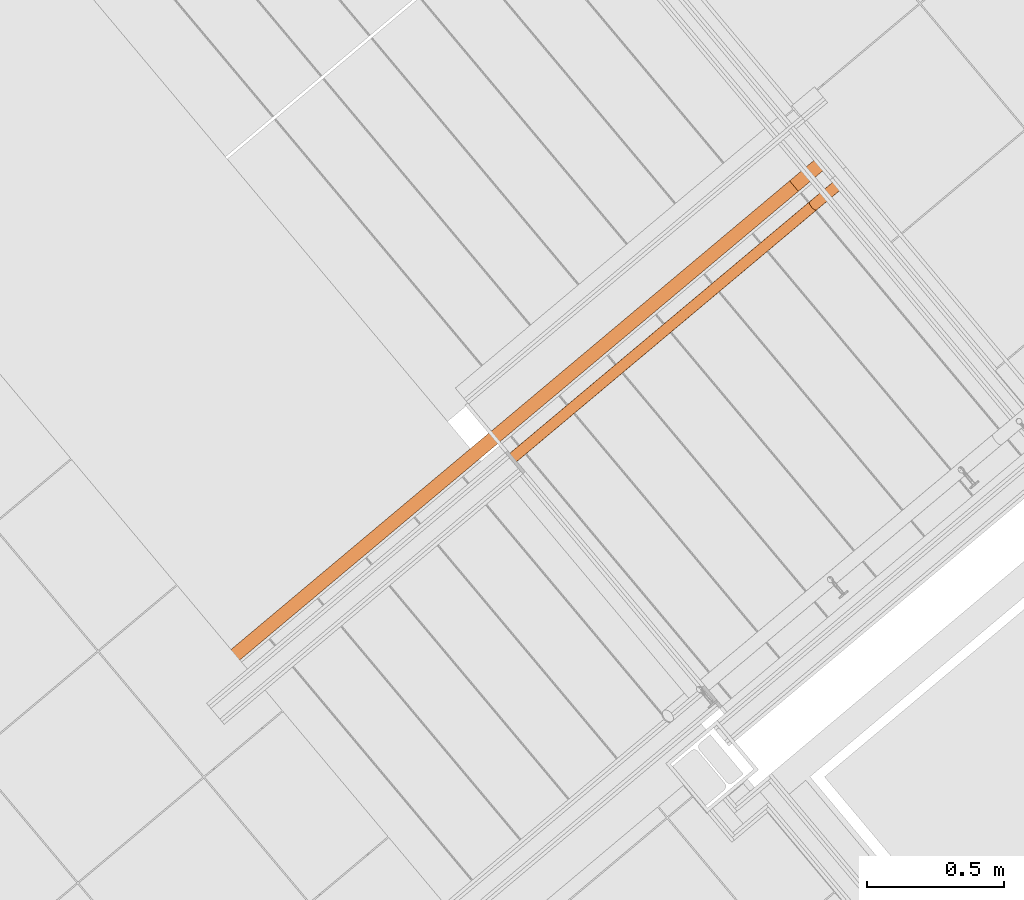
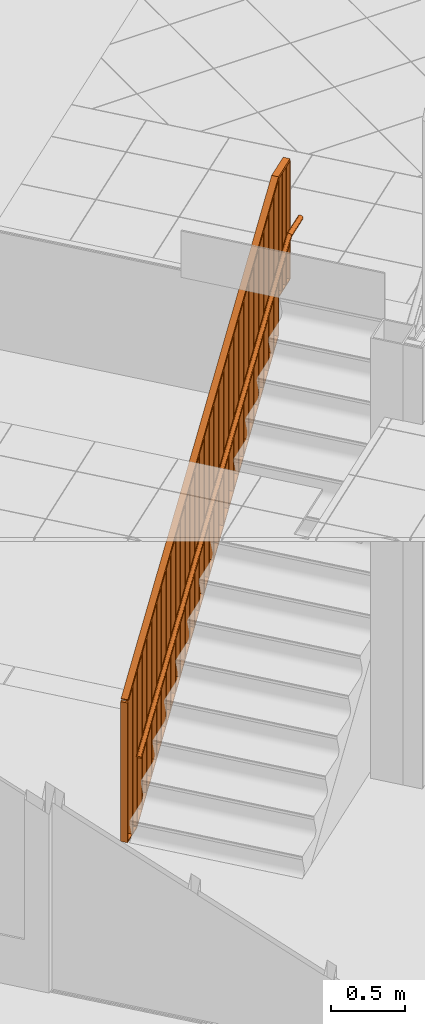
# One storey, part 317 of 338: 1 proxy.
"""IFC2X3 building model written with IfcOpenShell, lengths in millimetres."""

from ifc_helpers import new_model, entity, si_unit, converted_unit, derived_unit, money_unit, direction, origin_with_axes, place, context, subcontext, project, spatial, faceted_brep, material, type_object, element, save


model = new_model("IFC2X3")

# Units and contexts
model_context = context("Model", 3, precision=0.01, world=origin_with_axes(), true_north=direction((0.0, 1.0)))
plan_context = context("Plan", 3, precision=0.01, world=origin_with_axes(), true_north=direction((0.0, 1.0)))
body_context = subcontext(model_context, "Body", "Model", "MODEL_VIEW")
ifc_project = project(units=[si_unit("LENGTHUNIT", "METRE", prefix="MILLI"), si_unit("AREAUNIT", "SQUARE_METRE"), si_unit("VOLUMEUNIT", "CUBIC_METRE"), converted_unit("PLANEANGLEUNIT", "DEGREE", entity("IfcPlaneAngleMeasure", 0.0174532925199), si_unit("PLANEANGLEUNIT", "RADIAN"), dimensions=[0, 0, 0, 0, 0, 0, 0]), money_unit("EUR"), converted_unit("TIMEUNIT", "Year", entity("IfcTimeMeasure", 31556926.0), si_unit("TIMEUNIT", "SECOND"), dimensions=[0, 0, 1, 0, 0, 0, 0]), si_unit("MASSUNIT", "GRAM", prefix="KILO"), si_unit("THERMODYNAMICTEMPERATUREUNIT", "DEGREE_CELSIUS"), si_unit("LUMINOUSINTENSITYUNIT", "LUMEN"), si_unit("ENERGYUNIT", "JOULE", prefix="MEGA"), derived_unit("THERMALCONDUCTANCEUNIT", [(si_unit("POWERUNIT", "WATT"), 1), (si_unit("LENGTHUNIT", "METRE"), -1), (si_unit("THERMODYNAMICTEMPERATUREUNIT", "KELVIN"), -1)]), derived_unit("SPECIFICHEATCAPACITYUNIT", [(si_unit("ENERGYUNIT", "JOULE"), 1), (si_unit("MASSUNIT", "GRAM", prefix="KILO"), -1), (si_unit("THERMODYNAMICTEMPERATUREUNIT", "KELVIN"), -1)]), derived_unit("MASSDENSITYUNIT", [(si_unit("MASSUNIT", "GRAM", prefix="KILO"), 1), (si_unit("VOLUMEUNIT", "CUBIC_METRE"), -1)])], contexts=[model_context, plan_context])

# Site, building, storey
site_placement = place(None, origin_with_axes())
site = spatial("IfcSite", under=ifc_project, at=site_placement, Name="Fortuinstraat Woensdrecht", CompositionType="ELEMENT")
building_placement = place(site_placement, origin_with_axes())
building = spatial("IfcBuilding", under=site, at=building_placement, Name="IKC Fortuna", CompositionType="ELEMENT")
storey_placement = place(building_placement, origin_with_axes())
storey = spatial("IfcBuildingStorey", under=building, at=storey_placement, Name="00 begane grond", CompositionType="ELEMENT", Elevation=0.0)

# Proxy
ifc_material = material(Name="ALG - BINNENAFWERKING")
building_element_proxy_type = type_object("IfcBuildingElementProxyType", Name="ALG - BINNENAFWERKING", PredefinedType="USERDEFINED")
proxy_placement = place(storey_placement, origin_with_axes())
element("IfcBuildingElementProxy", 1, at=proxy_placement, inside=storey, type_object=building_element_proxy_type, material=ifc_material, Name="_Massa_Morph-x", ObjectType="Massing", context=body_context, shape_type="Brep", body=[
    faceted_brep([(18576.1688383, 808.710542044, 1450.0), (18576.1688383, 808.710542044, 2608.18322981), (18544.0294578, 847.0127642, 2608.18322981), (18544.0294578, 847.0127642, 1450.0), (18721.2666681, 930.462077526, 1450.0), (18721.2666681, 930.462077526, 1451.80524827), (20874.3021677, 2737.0733711, 3677.58164578), (20874.3021677, 2737.0733711, 3995.0), (21046.6621674, 2881.70058328, 3995.0), (21046.6621674, 2881.70058328, 4000.0), (21050.4923896, 2884.91452133, 4000.0), (21050.4923896, 2884.91452133, 4980.0), (21046.6621674, 2881.70058328, 4980.0), (21046.6621674, 2881.70058328, 5000.0), (20870.4719454, 2733.85943306, 5000.0), (18579.9990605, 811.924480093, 2632.14285714), (18589.510692, 819.905686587, 2616.46391557), (18648.7177532, 869.586309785, 2677.67130363), (18648.7177532, 869.586309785, 1460.0), (18583.8292827, 815.138418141, 1460.0), (18583.8292827, 815.138418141, 2616.10248447), (20874.3021677, 2737.0733711, 4005.0), (20874.3021677, 2737.0733711, 4978.44770115), (20875.8037356, 2738.33333623, 4980.0), (21042.8319451, 2878.48664524, 4980.0), (21042.8319451, 2878.48664524, 4005.0), (20991.7623156, 2835.63413792, 4005.0), (20991.7623156, 2835.63413792, 4977.5), (20984.1018712, 2829.20626183, 4977.5), (20984.1018712, 2829.20626183, 4005.0), (20933.0322416, 2786.35375451, 4005.0), (20933.0322416, 2786.35375451, 4977.5), (20925.3717972, 2779.92587842, 4977.5), (20925.3717972, 2779.92587842, 4005.0), (20866.6417232, 2730.64549501, 3682.41835422), (20798.7920725, 2673.71287815, 3612.27638438), (20798.7920725, 2673.71287815, 4900.38647666), (20866.6417232, 2730.64549501, 4970.52844649), (20723.2819774, 2610.35238519, 3534.21515989), (20723.2819774, 2610.35238519, 4822.32525217), (20791.1316281, 2667.28500205, 4892.467222), (20791.1316281, 2667.28500205, 3604.35712973), (20715.621533, 2603.9245091, 3526.29590524), (20647.7718823, 2546.99189224, 3456.1539354), (20647.7718823, 2546.99189224, 4744.26402768), (20715.621533, 2603.9245091, 4814.40599751), (20640.1114379, 2540.56401614, 3448.23468075), (20572.2617872, 2483.63139928, 3378.09271091), (20572.2617872, 2483.63139928, 4666.20280319), (20640.1114379, 2540.56401614, 4736.34477302), (20564.6013428, 2477.20352319, 3370.17345626), (20496.7516921, 2420.27090633, 3300.03148643), (20496.7516921, 2420.27090633, 4588.1415787), (20564.6013428, 2477.20352319, 4658.28354853), (20489.0912477, 2413.84303023, 3292.11223177), (20421.241597, 2356.91041338, 3221.97026194), (20421.241597, 2356.91041338, 4510.08035421), (20489.0912477, 2413.84303023, 4580.22232404), (20413.5811526, 2350.48253728, 3214.05100728), (20345.7315019, 2293.54992042, 3143.90903745), (20345.7315019, 2293.54992042, 4432.01912972), (20413.5811526, 2350.48253728, 4502.16109955), (20338.0710575, 2287.12204432, 3135.98978279), (20270.2214068, 2230.18942747, 3065.84781296), (20270.2214068, 2230.18942747, 4353.95790523), (20338.0710575, 2287.12204432, 4424.09987506), (20194.7113117, 2166.82893451, 2987.78658847), (20194.7113117, 2166.82893451, 4275.89668074), (20262.5609624, 2223.76155137, 4346.03865057), (20262.5609624, 2223.76155137, 3057.9285583), (20187.0508673, 2160.40105841, 2979.86733381), (20119.2012166, 2103.46844156, 2909.72536398), (20119.2012166, 2103.46844156, 4197.83545625), (20187.0508673, 2160.40105841, 4267.97742608), (20111.5407721, 2097.04056546, 2901.80610932), (20043.6911215, 2040.1079486, 2831.66413949), (20043.6911215, 2040.1079486, 4119.77423176), (20111.5407721, 2097.04056546, 4189.91620159), (20036.030677, 2033.6800725, 2823.74488483), (19968.1810264, 1976.74745565, 2753.602915), (19968.1810264, 1976.74745565, 4041.71300727), (20036.030677, 2033.6800725, 4111.8549771), (19960.5205819, 1970.31957955, 2745.68366034), (19892.6709313, 1913.38696269, 2675.54169051), (19892.6709313, 1913.38696269, 3963.65178278), (19960.5205819, 1970.31957955, 4033.79375261), (19885.0104868, 1906.95908659, 2667.62243585), (19744.6119212, 1789.150702, 2522.48046602), (19744.6119212, 1789.150702, 3810.59055829), (19809.5003917, 1843.59859364, 3877.67130363), (19809.5003917, 1843.59859364, 2591.12243585), (19817.1608362, 1850.02646974, 2599.04169051), (19817.1608362, 1850.02646974, 3885.59055829), (19885.0104868, 1906.95908659, 3955.73252812), (19672.0630063, 1728.27493425, 2447.48046602), (19672.0630063, 1728.27493425, 3735.59055829), (19736.9514768, 1782.7228259, 3802.67130363), (19736.9514768, 1782.7228259, 2514.56121136), (19664.4025619, 1721.84705816, 2439.56121136), (19599.5140914, 1667.39916651, 2372.48046602), (19599.5140914, 1667.39916651, 3660.59055829), (19664.4025619, 1721.84705816, 3727.67130363), (19591.853647, 1660.97129042, 2364.56121136), (19526.9651765, 1606.52339877, 2297.48046602), (19526.9651765, 1606.52339877, 3585.59055829), (19591.853647, 1660.97129042, 3652.67130363), (19454.4162616, 1545.64763103, 3510.59055829), (19519.3047321, 1600.09552268, 3577.67130363), (19519.3047321, 1600.09552268, 2289.56121136), (19454.4162616, 1545.64763103, 2222.48046602), (19381.8673467, 1484.77186329, 2147.48046602), (19381.8673467, 1484.77186329, 3435.59055829), (19446.7558172, 1539.21975494, 3502.67130363), (19446.7558172, 1539.21975494, 2214.56121136), (19374.2069023, 1478.34398719, 2139.56121136), (19309.3184318, 1423.89609555, 2072.48046602), (19309.3184318, 1423.89609555, 3360.59055829), (19374.2069023, 1478.34398719, 3427.67130363), (19301.6579874, 1417.46821945, 2064.56121136), (19236.7695169, 1363.02032781, 1997.48046602), (19236.7695169, 1363.02032781, 3285.59055829), (19301.6579874, 1417.46821945, 3352.67130363), (19164.220602, 1302.14456007, 1922.48046602), (19164.220602, 1302.14456007, 3210.59055829), (19229.1090725, 1356.59245171, 3277.67130363), (19229.1090725, 1356.59245171, 1989.56121136), (19156.5601576, 1295.71668397, 1914.56121136), (19091.6716871, 1241.26879233, 1847.48046602), (19091.6716871, 1241.26879233, 3135.59055829), (19156.5601576, 1295.71668397, 3202.67130363), (19084.0112426, 1234.84091623, 1839.56121136), (19019.1227722, 1180.39302459, 1772.48046602), (19019.1227722, 1180.39302459, 3060.59055829), (19084.0112426, 1234.84091623, 3127.67130363), (18946.5738573, 1119.51725685, 1697.48046602), (18946.5738573, 1119.51725685, 2985.59055829), (19011.4623277, 1173.96514849, 3052.67130363), (19011.4623277, 1173.96514849, 1764.56121136), (18938.9134128, 1113.08938075, 1689.56121136), (18874.0249424, 1058.6414891, 1622.48046602), (18874.0249424, 1058.6414891, 2910.59055829), (18938.9134128, 1113.08938075, 2977.67130363), (18866.3644979, 1052.21361301, 1614.56121136), (18801.4760275, 997.765721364, 1547.48046602), (18801.4760275, 997.765721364, 2835.59055829), (18866.3644979, 1052.21361301, 2902.67130363), (18793.815583, 991.337845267, 1539.56121136), (18728.9271125, 936.889953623, 1472.48046602), (18728.9271125, 936.889953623, 2760.59055829), (18793.815583, 991.337845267, 2827.67130363), (18716.8545223, 926.759847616, 1460.0), (18656.3781976, 876.014185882, 1460.0), (18656.3781976, 876.014185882, 2685.59055829), (18721.2666681, 930.462077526, 2752.67130363), (18721.2666681, 930.462077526, 1464.56121136), (18551.6899022, 853.440640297, 2616.10248447), (18551.6899022, 853.440640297, 1460.0), (18616.5783727, 907.888531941, 1460.0), (18616.5783727, 907.888531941, 2677.67130363), (18557.3713115, 858.207908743, 2616.46391557), (18547.85968, 850.226702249, 2632.14285714), (20838.332565, 2772.16165521, 5000.0), (21014.5227869, 2920.00280544, 5000.0), (21014.5227869, 2920.00280544, 4980.0), (21018.3530091, 2923.21674349, 4980.0), (21018.3530091, 2923.21674349, 4000.0), (21014.5227869, 2920.00280544, 4000.0), (21014.5227869, 2920.00280544, 3995.0), (20842.1627872, 2775.37559326, 3995.0), (20842.1627872, 2775.37559326, 3677.58164578), (18689.1272876, 968.764299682, 1451.80524827), (18689.1272876, 968.764299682, 1450.0), (20842.1627872, 2775.37559326, 4978.44770115), (20842.1627872, 2775.37559326, 4005.0), (20893.2324167, 2818.22810057, 4005.0), (20893.2324167, 2818.22810057, 4977.5), (20900.8928611, 2824.65597667, 4977.5), (20900.8928611, 2824.65597667, 4005.0), (20951.9624907, 2867.50848398, 4005.0), (20951.9624907, 2867.50848398, 4977.5), (20959.6229351, 2873.93636008, 4977.5), (20959.6229351, 2873.93636008, 4005.0), (21010.6925647, 2916.78886739, 4005.0), (21010.6925647, 2916.78886739, 4980.0), (20843.6643551, 2776.63555838, 4980.0), (20766.6526921, 2712.01510031, 3612.27638438), (20834.5023427, 2768.94771716, 3682.41835422), (20834.5023427, 2768.94771716, 4970.52844649), (20766.6526921, 2712.01510031, 4900.38647666), (20691.142597, 2648.65460735, 3534.21515989), (20758.9922476, 2705.58722421, 3604.35712973), (20758.9922476, 2705.58722421, 4892.467222), (20691.142597, 2648.65460735, 4822.32525217), (20615.6325018, 2585.2941144, 4744.26402768), (20615.6325018, 2585.2941144, 3456.1539354), (20683.4821525, 2642.22673125, 3526.29590524), (20683.4821525, 2642.22673125, 4814.40599751), (20540.1224067, 2521.93362144, 3378.09271091), (20607.9720574, 2578.8662383, 3448.23468075), (20607.9720574, 2578.8662383, 4736.34477302), (20540.1224067, 2521.93362144, 4666.20280319), (20464.6123116, 2458.57312849, 3300.03148643), (20532.4619623, 2515.50574534, 3370.17345626), (20532.4619623, 2515.50574534, 4658.28354853), (20464.6123116, 2458.57312849, 4588.1415787), (20389.1022165, 2395.21263553, 3221.97026194), (20456.9518672, 2452.14525239, 3292.11223177), (20456.9518672, 2452.14525239, 4580.22232404), (20389.1022165, 2395.21263553, 4510.08035421), (20313.5921214, 2331.85214258, 3143.90903745), (20381.4417721, 2388.78475943, 3214.05100728), (20381.4417721, 2388.78475943, 4502.16109955), (20313.5921214, 2331.85214258, 4432.01912972), (20238.0820263, 2268.49164962, 3065.84781296), (20305.931677, 2325.42426648, 3135.98978279), (20305.931677, 2325.42426648, 4424.09987506), (20238.0820263, 2268.49164962, 4353.95790523), (20162.5719312, 2205.13115667, 2987.78658847), (20230.4215819, 2262.06377352, 3057.9285583), (20230.4215819, 2262.06377352, 4346.03865057), (20162.5719312, 2205.13115667, 4275.89668074), (20087.0618361, 2141.77066371, 2909.72536398), (20154.9114868, 2198.70328057, 2979.86733381), (20154.9114868, 2198.70328057, 4267.97742608), (20087.0618361, 2141.77066371, 4197.83545625), (20011.551741, 2078.41017076, 2831.66413949), (20079.4013917, 2135.34278761, 2901.80610932), (20079.4013917, 2135.34278761, 4189.91620159), (20011.551741, 2078.41017076, 4119.77423176), (19936.0416459, 2015.0496778, 2753.602915), (20003.8912966, 2071.98229466, 2823.74488483), (20003.8912966, 2071.98229466, 4111.8549771), (19936.0416459, 2015.0496778, 4041.71300727), (19860.5315508, 1951.68918485, 2675.54169051), (19928.3812014, 2008.62180171, 2745.68366034), (19928.3812014, 2008.62180171, 4033.79375261), (19860.5315508, 1951.68918485, 3963.65178278), (19712.4725408, 1827.45292415, 2522.48046602), (19852.8711063, 1945.26130875, 2667.62243585), (19852.8711063, 1945.26130875, 3955.73252812), (19785.0214557, 1888.32869189, 3885.59055829), (19785.0214557, 1888.32869189, 2599.04169051), (19777.3610112, 1881.9008158, 2591.12243585), (19777.3610112, 1881.9008158, 3877.67130363), (19712.4725408, 1827.45292415, 3810.59055829), (19639.9236259, 1766.57715641, 3735.59055829), (19639.9236259, 1766.57715641, 2447.48046602), (19704.8120963, 1821.02504805, 2514.56121136), (19704.8120963, 1821.02504805, 3802.67130363), (19567.3747109, 1705.70138867, 3660.59055829), (19567.3747109, 1705.70138867, 2372.48046602), (19632.2631814, 1760.14928031, 2439.56121136), (19632.2631814, 1760.14928031, 3727.67130363), (19494.825796, 1644.82562093, 2297.48046602), (19559.7142665, 1699.27351257, 2364.56121136), (19559.7142665, 1699.27351257, 3652.67130363), (19494.825796, 1644.82562093, 3585.59055829), (19422.2768811, 1583.94985319, 2222.48046602), (19487.1653516, 1638.39774483, 2289.56121136), (19487.1653516, 1638.39774483, 3577.67130363), (19422.2768811, 1583.94985319, 3510.59055829), (19349.7279662, 1523.07408545, 2147.48046602), (19414.6164367, 1577.52197709, 2214.56121136), (19414.6164367, 1577.52197709, 3502.67130363), (19349.7279662, 1523.07408545, 3435.59055829), (19277.1790513, 1462.19831771, 2072.48046602), (19342.0675218, 1516.64620935, 2139.56121136), (19342.0675218, 1516.64620935, 3427.67130363), (19277.1790513, 1462.19831771, 3360.59055829), (19204.6301364, 1401.32254997, 3285.59055829), (19204.6301364, 1401.32254997, 1997.48046602), (19269.5186069, 1455.77044161, 2064.56121136), (19269.5186069, 1455.77044161, 3352.67130363), (19132.0812215, 1340.44678222, 1922.48046602), (19196.969692, 1394.89467387, 1989.56121136), (19196.969692, 1394.89467387, 3277.67130363), (19132.0812215, 1340.44678222, 3210.59055829), (19059.5323066, 1279.57101448, 1847.48046602), (19124.4207771, 1334.01890613, 1914.56121136), (19124.4207771, 1334.01890613, 3202.67130363), (19059.5323066, 1279.57101448, 3135.59055829), (18986.9833917, 1218.69524674, 1772.48046602), (19051.8718622, 1273.14313839, 1839.56121136), (19051.8718622, 1273.14313839, 3127.67130363), (18986.9833917, 1218.69524674, 3060.59055829), (18914.4344768, 1157.819479, 2985.59055829), (18914.4344768, 1157.819479, 1697.48046602), (18979.3229473, 1212.26737065, 1764.56121136), (18979.3229473, 1212.26737065, 3052.67130363), (18841.8855619, 1096.94371126, 2910.59055829), (18841.8855619, 1096.94371126, 1622.48046602), (18906.7740323, 1151.3916029, 1689.56121136), (18906.7740323, 1151.3916029, 2977.67130363), (18769.336647, 1036.06794352, 1547.48046602), (18834.2251174, 1090.51583516, 1614.56121136), (18834.2251174, 1090.51583516, 2902.67130363), (18769.336647, 1036.06794352, 2835.59055829), (18696.7877321, 975.192175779, 1472.48046602), (18761.6762025, 1029.64006742, 1539.56121136), (18761.6762025, 1029.64006742, 2827.67130363), (18696.7877321, 975.192175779, 2760.59055829), (18624.2388172, 914.316408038, 1460.0), (18684.7151418, 965.062069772, 1460.0), (18689.1272876, 968.764299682, 1464.56121136), (18689.1272876, 968.764299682, 2752.67130363), (18624.2388172, 914.316408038, 2685.59055829)], [[[0, 1, 2, 3]], [[1, 0, 4, 5, 6, 7, 8, 9, 10, 11, 12, 13, 14, 15, 16, 17, 18, 19, 20], [21, 22, 23, 24, 25, 26, 27, 28, 29, 30, 31, 32, 33], [34, 35, 36, 37], [38, 39, 40, 41], [42, 43, 44, 45], [46, 47, 48, 49], [50, 51, 52, 53], [54, 55, 56, 57], [58, 59, 60, 61], [62, 63, 64, 65], [66, 67, 68, 69], [70, 71, 72, 73], [74, 75, 76, 77], [78, 79, 80, 81], [82, 83, 84, 85], [86, 87, 88, 89, 90, 91, 92, 93], [94, 95, 96, 97], [98, 99, 100, 101], [102, 103, 104, 105], [106, 107, 108, 109], [110, 111, 112, 113], [114, 115, 116, 117], [118, 119, 120, 121], [122, 123, 124, 125], [126, 127, 128, 129], [130, 131, 132, 133], [134, 135, 136, 137], [138, 139, 140, 141], [142, 143, 144, 145], [146, 147, 148, 149], [150, 151, 152, 153, 154]], [[1, 20, 155, 2]], [[156, 157, 158, 159, 160, 161, 162, 163, 164, 165, 166, 167, 168, 169, 170, 171, 3, 2, 155], [172, 173, 174, 175, 176, 177, 178, 179, 180, 181, 182, 183, 184], [185, 186, 187, 188], [189, 190, 191, 192], [193, 194, 195, 196], [197, 198, 199, 200], [201, 202, 203, 204], [205, 206, 207, 208], [209, 210, 211, 212], [213, 214, 215, 216], [217, 218, 219, 220], [221, 222, 223, 224], [225, 226, 227, 228], [229, 230, 231, 232], [233, 234, 235, 236], [237, 238, 239, 240, 241, 242, 243, 244], [245, 246, 247, 248], [249, 250, 251, 252], [253, 254, 255, 256], [257, 258, 259, 260], [261, 262, 263, 264], [265, 266, 267, 268], [269, 270, 271, 272], [273, 274, 275, 276], [277, 278, 279, 280], [281, 282, 283, 284], [285, 286, 287, 288], [289, 290, 291, 292], [293, 294, 295, 296], [297, 298, 299, 300], [301, 302, 303, 304, 305]], [[0, 3, 171, 4]], [[5, 4, 171, 170]], [[5, 170, 169, 6]], [[6, 169, 168, 7]], [[7, 168, 167, 8]], [[167, 166, 9, 8]], [[166, 165, 10, 9]], [[10, 165, 164, 11]], [[164, 163, 12, 11]], [[163, 162, 13, 12]], [[161, 14, 13, 162]], [[160, 15, 14, 161]], [[15, 160, 159, 16]], [[16, 159, 158, 17]], [[157, 18, 17, 158]], [[156, 19, 18, 157]], [[20, 19, 156, 155]], [[173, 172, 22, 21]], [[22, 172, 184, 23]], [[23, 184, 183, 24]], [[183, 182, 25, 24]], [[182, 181, 26, 25]], [[27, 26, 181, 180]], [[28, 27, 180, 179]], [[29, 28, 179, 178]], [[177, 30, 29, 178]], [[30, 177, 176, 31]], [[175, 32, 31, 176]], [[174, 33, 32, 175]], [[173, 21, 33, 174]], [[185, 35, 34, 186]], [[35, 185, 188, 36]], [[37, 36, 188, 187]], [[187, 186, 34, 37]], [[39, 38, 189, 192]], [[39, 192, 191, 40]], [[190, 41, 40, 191]], [[189, 38, 41, 190]], [[194, 43, 42, 195]], [[43, 194, 193, 44]], [[44, 193, 196, 45]], [[42, 45, 196, 195]], [[47, 46, 198, 197]], [[47, 197, 200, 48]], [[48, 200, 199, 49]], [[46, 49, 199, 198]], [[201, 51, 50, 202]], [[51, 201, 204, 52]], [[53, 52, 204, 203]], [[202, 50, 53, 203]], [[55, 54, 206, 205]], [[56, 55, 205, 208]], [[57, 56, 208, 207]], [[206, 54, 57, 207]], [[209, 59, 58, 210]], [[59, 209, 212, 60]], [[60, 212, 211, 61]], [[58, 61, 211, 210]], [[213, 63, 62, 214]], [[63, 213, 216, 64]], [[65, 64, 216, 215]], [[214, 62, 65, 215]], [[67, 66, 217, 220]], [[68, 67, 220, 219]], [[218, 69, 68, 219]], [[217, 66, 69, 218]], [[71, 70, 222, 221]], [[71, 221, 224, 72]], [[72, 224, 223, 73]], [[222, 70, 73, 223]], [[225, 75, 74, 226]], [[75, 225, 228, 76]], [[77, 76, 228, 227]], [[226, 74, 77, 227]], [[229, 79, 78, 230]], [[79, 229, 232, 80]], [[80, 232, 231, 81]], [[230, 78, 81, 231]], [[233, 83, 82, 234]], [[83, 233, 236, 84]], [[84, 236, 235, 85]], [[234, 82, 85, 235]], [[237, 87, 86, 238]], [[87, 237, 244, 88]], [[88, 244, 243, 89]], [[242, 90, 89, 243]], [[90, 242, 241, 91]], [[91, 241, 240, 92]], [[92, 240, 239, 93]], [[238, 86, 93, 239]], [[94, 246, 245, 95]], [[95, 245, 248, 96]], [[247, 97, 96, 248]], [[246, 94, 97, 247]], [[99, 98, 251, 250]], [[250, 249, 100, 99]], [[100, 249, 252, 101]], [[251, 98, 101, 252]], [[253, 103, 102, 254]], [[103, 253, 256, 104]], [[104, 256, 255, 105]], [[254, 102, 105, 255]], [[107, 106, 260, 259]], [[258, 108, 107, 259]], [[257, 109, 108, 258]], [[109, 257, 260, 106]], [[111, 110, 261, 264]], [[264, 263, 112, 111]], [[262, 113, 112, 263]], [[110, 113, 262, 261]], [[265, 115, 114, 266]], [[115, 265, 268, 116]], [[116, 268, 267, 117]], [[266, 114, 117, 267]], [[270, 119, 118, 271]], [[270, 269, 120, 119]], [[120, 269, 272, 121]], [[271, 118, 121, 272]], [[122, 273, 276, 123]], [[276, 275, 124, 123]], [[275, 274, 125, 124]], [[273, 122, 125, 274]], [[127, 126, 278, 277]], [[127, 277, 280, 128]], [[128, 280, 279, 129]], [[126, 129, 279, 278]], [[281, 131, 130, 282]], [[131, 281, 284, 132]], [[132, 284, 283, 133]], [[282, 130, 133, 283]], [[134, 286, 285, 135]], [[135, 285, 288, 136]], [[287, 137, 136, 288]], [[286, 134, 137, 287]], [[139, 138, 291, 290]], [[290, 289, 140, 139]], [[140, 289, 292, 141]], [[291, 138, 141, 292]], [[293, 143, 142, 294]], [[143, 293, 296, 144]], [[144, 296, 295, 145]], [[294, 142, 145, 295]], [[147, 146, 298, 297]], [[148, 147, 297, 300]], [[149, 148, 300, 299]], [[298, 146, 149, 299]], [[301, 151, 150, 302]], [[151, 301, 305, 152]], [[152, 305, 304, 153]], [[154, 153, 304, 303]], [[150, 154, 303, 302]]]),
    faceted_brep([(18631.3421705, 779.711235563, 2158.62444478), (18633.9856441, 779.319055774, 2156.38568619), (18636.742577, 778.414389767, 2154.4531495), (18639.5292012, 777.024725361, 2152.88555386), (18642.2608465, 775.192286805, 2151.73052987), (18644.8545133, 772.972751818, 2151.02317235), (18647.2313943, 770.433559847, 2150.784974), (18649.3192692, 767.651862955, 2151.02317235), (18651.0546989, 764.712181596, 2151.73052987), (18652.3849534, 761.703836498, 2152.88555386), (18653.2696134, 758.718234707, 2154.4531495), (18653.6817992, 755.846092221, 2156.38568619), (18653.6089865, 753.174677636, 2158.62444478), (18653.0533878, 750.785160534, 2161.10140172), (18652.0318847, 748.750145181, 2163.74129594), (18650.5755149, 747.13146449, 2166.46391557), (18648.7285297, 745.978301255, 2169.1865352), (18646.5470486, 745.325693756, 2171.82642941), (18644.097355, 745.193471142, 2174.30338636), (18641.4538814, 745.585650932, 2176.54214495), (18638.6969485, 746.490316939, 2178.47468164), (18635.9103243, 747.879981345, 2180.04227728), (18633.178679, 749.712419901, 2181.19730127), (18630.5850122, 751.931954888, 2181.90465879), (18628.2081312, 754.471146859, 2182.14285714), (18626.1202564, 757.25284375, 2181.90465879), (18624.3848266, 760.19252511, 2181.19730127), (18623.0545721, 763.200870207, 2180.04227728), (18622.1699121, 766.186471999, 2178.47468164), (18621.7577263, 769.058614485, 2176.54214495), (18621.830539, 771.730029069, 2174.30338636), (18622.3861377, 774.119546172, 2171.82642941), (18623.4076408, 776.154561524, 2169.1865352), (18624.8640106, 777.773242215, 2166.46391557), (18626.7109958, 778.926405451, 2163.74129594), (18628.8924769, 779.57901295, 2161.10140172), (20915.5452934, 2696.38523354, 4520.0), (20917.5919375, 2695.4922543, 4517.14424781), (20919.8336764, 2694.15528919, 4514.67911114), (20922.202396, 2692.41496123, 4512.67949192), (20924.626124, 2690.32414939, 4511.20614758), (20927.0312167, 2687.94638195, 4510.30384494), (20929.3445965, 2685.35390617, 4510.0), (20931.4959726, 2682.62549309, 4510.30384494), (20933.4199764, 2679.84404419, 4511.20614758), (20935.0581482, 2677.09407236, 4512.67949192), (20936.3607128, 2674.45913413, 4514.67911114), (20937.2880925, 2672.01929074, 4517.14424781), (20937.8121094, 2669.84867562, 4520.0), (20937.9168415, 2668.01324179, 4523.15959713), (20937.5991064, 2666.56875799, 4526.52703645), (20936.8685585, 2665.55911413, 4530.0), (20935.7473951, 2665.01498773, 4533.47296355), (20934.2696822, 2664.95291178, 4536.84040287), (20932.4803192, 2665.37477244, 4540.0), (20930.4336752, 2666.26775169, 4542.85575219), (20928.1919363, 2667.6047168, 4545.32088886), (20925.8232167, 2669.34504476, 4547.32050808), (20923.3994887, 2671.43585659, 4548.79385242), (20920.994396, 2673.81362403, 4549.69615506), (20918.6810162, 2676.40609982, 4550.0), (20916.5296401, 2679.13451289, 4549.69615506), (20914.6056362, 2681.9159618, 4548.79385242), (20912.9674645, 2684.66593362, 4547.32050808), (20911.6648999, 2687.30087186, 4545.32088886), (20910.7375201, 2689.74071524, 4542.85575219), (20910.2135033, 2691.91133037, 4540.0), (20910.1087712, 2693.7467642, 4536.84040287), (20910.4265063, 2695.191248, 4533.47296355), (20911.1570541, 2696.20089186, 4530.0), (20912.2782176, 2696.74501826, 4526.52703645), (20913.7559305, 2696.80709421, 4523.15959713), (21083.7378301, 2837.51552901, 4520.0), (21085.0231606, 2835.98373183, 4517.14424781), (21086.6077199, 2834.09532758, 4514.67911114), (21088.443362, 2831.90769448, 4512.67949192), (21090.4743119, 2829.48730265, 4511.20614758), (21092.6388601, 2826.90769448, 4510.30384494), (21094.8712381, 2824.24725005, 4510.0), (21097.103616, 2821.58680562, 4510.30384494), (21099.2681643, 2819.00719744, 4511.20614758), (21101.2991142, 2816.58680562, 4512.67949192), (21103.1347563, 2814.39917252, 4514.67911114), (21104.7193156, 2812.51076827, 4517.14424781), (21106.0046461, 2810.97897109, 4520.0), (21106.9516936, 2809.85032384, 4523.15959713), (21107.5316825, 2809.15911991, 4526.52703645), (21107.7269903, 2808.92636119, 4530.0), (21107.5316825, 2809.15911991, 4533.47296355), (21106.9516936, 2809.85032384, 4536.84040287), (21106.0046461, 2810.97897109, 4540.0), (21104.7193156, 2812.51076827, 4542.85575219), (21103.1347563, 2814.39917252, 4545.32088886), (21101.2991142, 2816.58680562, 4547.32050808), (21099.2681643, 2819.00719744, 4548.79385242), (21097.103616, 2821.58680562, 4549.69615506), (21094.8712381, 2824.24725005, 4550.0), (21092.6388601, 2826.90769448, 4549.69615506), (21090.4743119, 2829.48730265, 4548.79385242), (21088.443362, 2831.90769448, 4547.32050808), (21086.6077199, 2834.09532758, 4545.32088886), (21085.0231606, 2835.98373183, 4542.85575219), (21083.7378301, 2837.51552901, 4540.0), (21082.7907826, 2838.64417626, 4536.84040287), (21082.2107937, 2839.33538018, 4533.47296355), (21082.0154859, 2839.56813891, 4530.0), (21082.2107937, 2839.33538018, 4526.52703645), (21082.7907826, 2838.64417626, 4523.15959713)], [[[0, 1, 2, 3, 4, 5, 6, 7, 8, 9, 10, 11, 12, 13, 14, 15, 16, 17, 18, 19, 20, 21, 22, 23, 24, 25, 26, 27, 28, 29, 30, 31, 32, 33, 34, 35]], [[1, 0, 36, 37]], [[2, 1, 37, 38]], [[3, 2, 38, 39]], [[4, 3, 39, 40]], [[5, 4, 40, 41]], [[6, 5, 41, 42]], [[7, 6, 42, 43]], [[8, 7, 43, 44]], [[9, 8, 44, 45]], [[10, 9, 45, 46]], [[11, 10, 46, 47]], [[12, 11, 47, 48]], [[13, 12, 48, 49]], [[14, 13, 49, 50]], [[15, 14, 50, 51]], [[16, 15, 51, 52]], [[17, 16, 52, 53]], [[18, 17, 53, 54]], [[19, 18, 54, 55]], [[20, 19, 55, 56]], [[21, 20, 56, 57]], [[22, 21, 57, 58]], [[23, 22, 58, 59]], [[24, 23, 59, 60]], [[25, 24, 60, 61]], [[26, 25, 61, 62]], [[27, 26, 62, 63]], [[28, 27, 63, 64]], [[29, 28, 64, 65]], [[30, 29, 65, 66]], [[31, 30, 66, 67]], [[32, 31, 67, 68]], [[33, 32, 68, 69]], [[34, 33, 69, 70]], [[35, 34, 70, 71]], [[0, 35, 71, 36]], [[37, 36, 72, 73]], [[38, 37, 73, 74]], [[39, 38, 74, 75]], [[40, 39, 75, 76]], [[41, 40, 76, 77]], [[42, 41, 77, 78]], [[43, 42, 78, 79]], [[44, 43, 79, 80]], [[45, 44, 80, 81]], [[46, 45, 81, 82]], [[47, 46, 82, 83]], [[48, 47, 83, 84]], [[49, 48, 84, 85]], [[86, 50, 49, 85]], [[51, 50, 86, 87]], [[88, 52, 51, 87]], [[53, 52, 88, 89]], [[54, 53, 89, 90]], [[55, 54, 90, 91]], [[56, 55, 91, 92]], [[57, 56, 92, 93]], [[58, 57, 93, 94]], [[59, 58, 94, 95]], [[60, 59, 95, 96]], [[61, 60, 96, 97]], [[62, 61, 97, 98]], [[63, 62, 98, 99]], [[64, 63, 99, 100]], [[65, 64, 100, 101]], [[66, 65, 101, 102]], [[67, 66, 102, 103]], [[68, 67, 103, 104]], [[69, 68, 104, 105]], [[70, 69, 105, 106]], [[71, 70, 106, 107]], [[36, 71, 107, 72]], [[77, 76, 75, 74, 73, 72, 107, 106, 105, 104, 103, 102, 101, 100, 99, 98, 97, 96, 95, 94, 93, 92, 91, 90, 89, 88, 87, 86, 85, 84, 83, 82, 81, 80, 79, 78]]]),
])

save(model, "model.ifc")
